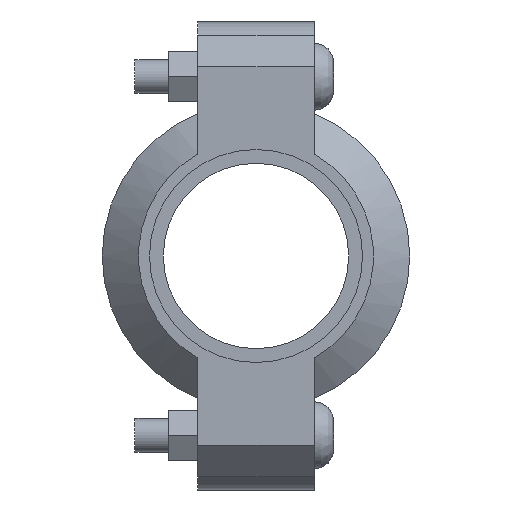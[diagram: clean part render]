
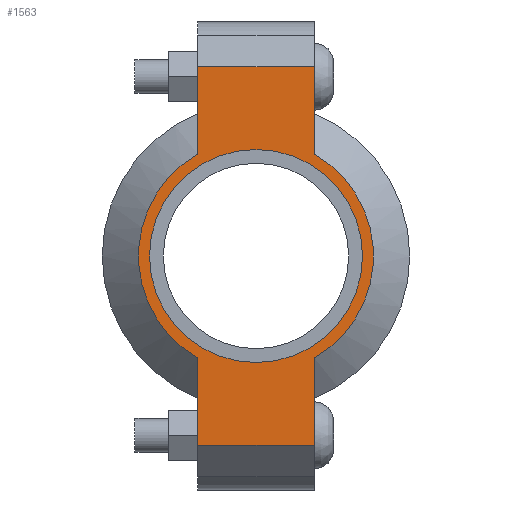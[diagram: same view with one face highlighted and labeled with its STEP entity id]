
A CAD part, left-side view. The second image highlights one B-rep face of the part: STEP entity #1563.
In plain terms, the highlighted planar face has unit normal (-1, 0, 0) as drawn and (0, 0, 1) by its records, which use the part's own axes.
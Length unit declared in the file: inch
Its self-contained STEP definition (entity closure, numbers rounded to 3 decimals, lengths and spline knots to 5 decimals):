
#186=LINE('',#2687,#279);
#194=LINE('',#2723,#287);
#201=LINE('',#2744,#294);
#210=LINE('',#2776,#303);
#211=LINE('',#2780,#304);
#212=LINE('',#2782,#305);
#279=VECTOR('',#2183,0.3937);
#287=VECTOR('',#2199,0.3937);
#294=VECTOR('',#2218,0.3937);
#303=VECTOR('',#2243,0.3937);
#304=VECTOR('',#2248,0.3937);
#305=VECTOR('',#2249,0.3937);
#361=FACE_BOUND('',#539,.T.);
#433=FACE_OUTER_BOUND('',#538,.T.);
#538=EDGE_LOOP('',(#1303,#1304,#1305,#1306,#1307,#1308,#1309,#1310));
#539=EDGE_LOOP('',(#1311));
#611=CIRCLE('',#1745,1.1875);
#637=CIRCLE('',#1804,1.31);
#638=CIRCLE('',#1805,1.31);
#703=VERTEX_POINT('',#2503);
#746=VERTEX_POINT('',#2684);
#747=VERTEX_POINT('',#2686);
#758=VERTEX_POINT('',#2718);
#759=VERTEX_POINT('',#2722);
#766=VERTEX_POINT('',#2741);
#767=VERTEX_POINT('',#2743);
#777=VERTEX_POINT('',#2779);
#778=VERTEX_POINT('',#2781);
#859=EDGE_CURVE('',#703,#703,#611,.T.);
#920=EDGE_CURVE('',#747,#746,#186,.T.);
#934=EDGE_CURVE('',#759,#758,#194,.T.);
#944=EDGE_CURVE('',#767,#766,#201,.T.);
#959=EDGE_CURVE('',#759,#746,#210,.T.);
#960=EDGE_CURVE('',#758,#767,#637,.T.);
#961=EDGE_CURVE('',#777,#766,#211,.T.);
#962=EDGE_CURVE('',#777,#778,#212,.T.);
#963=EDGE_CURVE('',#778,#747,#638,.T.);
#1303=ORIENTED_EDGE('',*,*,#959,.F.);
#1304=ORIENTED_EDGE('',*,*,#934,.T.);
#1305=ORIENTED_EDGE('',*,*,#960,.T.);
#1306=ORIENTED_EDGE('',*,*,#944,.T.);
#1307=ORIENTED_EDGE('',*,*,#961,.F.);
#1308=ORIENTED_EDGE('',*,*,#962,.T.);
#1309=ORIENTED_EDGE('',*,*,#963,.T.);
#1310=ORIENTED_EDGE('',*,*,#920,.T.);
#1311=ORIENTED_EDGE('',*,*,#859,.T.);
#1404=PLANE('',#1803);
#1563=ADVANCED_FACE('',(#433,#361),#1404,.T.);
#1745=AXIS2_PLACEMENT_3D('',#2505,#2059,#2060);
#1803=AXIS2_PLACEMENT_3D('',#2777,#2244,#2245);
#1804=AXIS2_PLACEMENT_3D('',#2778,#2246,#2247);
#1805=AXIS2_PLACEMENT_3D('',#2783,#2250,#2251);
#2059=DIRECTION('center_axis',(0.,0.,-1.));
#2060=DIRECTION('ref_axis',(-1.,0.,0.));
#2183=DIRECTION('',(-1.,0.,0.));
#2199=DIRECTION('',(1.,0.,0.));
#2218=DIRECTION('',(1.,0.,0.));
#2243=DIRECTION('',(0.,1.,0.));
#2244=DIRECTION('center_axis',(0.,0.,1.));
#2245=DIRECTION('ref_axis',(1.,0.,0.));
#2246=DIRECTION('center_axis',(0.,0.,1.));
#2247=DIRECTION('ref_axis',(-1.,0.,0.));
#2248=DIRECTION('',(0.,-1.,0.));
#2249=DIRECTION('',(-1.,0.,0.));
#2250=DIRECTION('center_axis',(0.,0.,1.));
#2251=DIRECTION('ref_axis',(-1.,0.,0.));
#2503=CARTESIAN_POINT('',(1.1875,0.,0.94));
#2505=CARTESIAN_POINT('Origin',(0.,0.,0.94));
#2684=CARTESIAN_POINT('',(-2.11,0.65,0.94));
#2686=CARTESIAN_POINT('',(-1.13737,0.65,0.94));
#2687=CARTESIAN_POINT('',(-2.61,0.65,0.94));
#2718=CARTESIAN_POINT('',(-1.13737,-0.65,0.94));
#2722=CARTESIAN_POINT('',(-2.11,-0.65,0.94));
#2723=CARTESIAN_POINT('',(2.61,-0.65,0.94));
#2741=CARTESIAN_POINT('',(2.11,-0.65,0.94));
#2743=CARTESIAN_POINT('',(1.13737,-0.65,0.94));
#2744=CARTESIAN_POINT('',(2.61,-0.65,0.94));
#2776=CARTESIAN_POINT('',(-2.11,0.325,0.94));
#2777=CARTESIAN_POINT('Origin',(0.,0.,0.94));
#2778=CARTESIAN_POINT('Origin',(0.,0.,0.94));
#2779=CARTESIAN_POINT('',(2.11,0.65,0.94));
#2780=CARTESIAN_POINT('',(2.11,-0.325,0.94));
#2781=CARTESIAN_POINT('',(1.13737,0.65,0.94));
#2782=CARTESIAN_POINT('',(-2.61,0.65,0.94));
#2783=CARTESIAN_POINT('Origin',(0.,0.,0.94));
